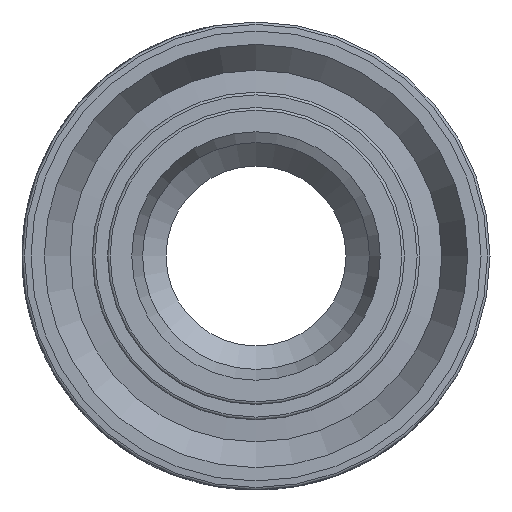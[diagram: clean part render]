
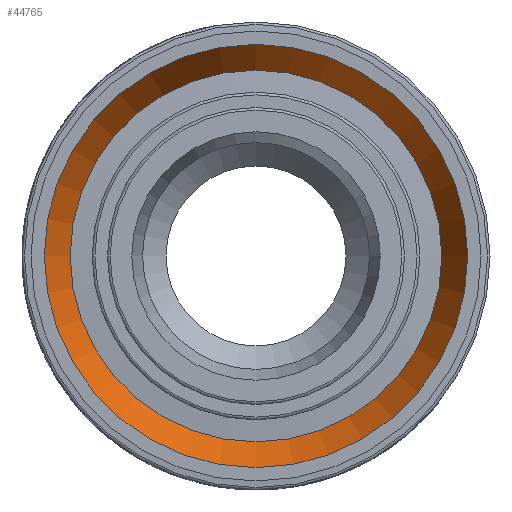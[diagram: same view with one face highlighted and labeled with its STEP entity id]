
A CAD part, left-side view. The second image highlights one B-rep face of the part: STEP entity #44765.
In plain terms, the highlighted conical face has half-angle 28.167 degrees and reference radius 11.043 mm.
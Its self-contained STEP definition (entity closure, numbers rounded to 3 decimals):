
#19=CONICAL_SURFACE('',#46704,11.043,0.492);
#4863=FACE_OUTER_BOUND('',#7560,.T.);
#7560=EDGE_LOOP('',(#41617,#41618,#41619,#41620,#41621,#41622));
#13343=LINE('',#103008,#16270);
#16270=VECTOR('',#53554,11.043);
#17144=CIRCLE('',#46705,10.325);
#17145=CIRCLE('',#46706,11.76);
#17146=CIRCLE('',#46707,11.76);
#17147=CIRCLE('',#46708,10.325);
#21694=VERTEX_POINT('',#103004);
#21695=VERTEX_POINT('',#103005);
#21696=VERTEX_POINT('',#103007);
#21697=VERTEX_POINT('',#103009);
#28385=EDGE_CURVE('',#21694,#21695,#17144,.T.);
#28386=EDGE_CURVE('',#21695,#21696,#13343,.T.);
#28387=EDGE_CURVE('',#21697,#21696,#17145,.T.);
#28388=EDGE_CURVE('',#21696,#21697,#17146,.T.);
#28389=EDGE_CURVE('',#21695,#21694,#17147,.T.);
#41617=ORIENTED_EDGE('',*,*,#28385,.T.);
#41618=ORIENTED_EDGE('',*,*,#28386,.T.);
#41619=ORIENTED_EDGE('',*,*,#28387,.F.);
#41620=ORIENTED_EDGE('',*,*,#28388,.F.);
#41621=ORIENTED_EDGE('',*,*,#28386,.F.);
#41622=ORIENTED_EDGE('',*,*,#28389,.T.);
#44765=ADVANCED_FACE('',(#4863),#19,.F.);
#46704=AXIS2_PLACEMENT_3D('',#103003,#53550,#53551);
#46705=AXIS2_PLACEMENT_3D('',#103006,#53552,#53553);
#46706=AXIS2_PLACEMENT_3D('',#103010,#53555,#53556);
#46707=AXIS2_PLACEMENT_3D('',#103011,#53557,#53558);
#46708=AXIS2_PLACEMENT_3D('',#103012,#53559,#53560);
#53550=DIRECTION('center_axis',(-1.,0.,0.));
#53551=DIRECTION('ref_axis',(0.,1.,0.));
#53552=DIRECTION('center_axis',(1.,0.,0.));
#53553=DIRECTION('ref_axis',(0.,0.,-1.));
#53554=DIRECTION('',(-0.882,-0.472,0.));
#53555=DIRECTION('center_axis',(1.,0.,0.));
#53556=DIRECTION('ref_axis',(0.,0.,-1.));
#53557=DIRECTION('center_axis',(1.,0.,0.));
#53558=DIRECTION('ref_axis',(0.,0.,-1.));
#53559=DIRECTION('center_axis',(1.,0.,0.));
#53560=DIRECTION('ref_axis',(0.,0.,-1.));
#103003=CARTESIAN_POINT('Origin',(-29.671,0.,0.));
#103004=CARTESIAN_POINT('',(-28.331,10.325,0.));
#103005=CARTESIAN_POINT('',(-28.331,-10.325,0.));
#103006=CARTESIAN_POINT('Origin',(-28.331,0.,0.));
#103007=CARTESIAN_POINT('',(-31.011,-11.76,0.));
#103008=CARTESIAN_POINT('',(-29.671,-11.043,0.));
#103009=CARTESIAN_POINT('',(-31.011,11.76,0.));
#103010=CARTESIAN_POINT('Origin',(-31.011,0.,0.));
#103011=CARTESIAN_POINT('Origin',(-31.011,0.,0.));
#103012=CARTESIAN_POINT('Origin',(-28.331,0.,0.));
